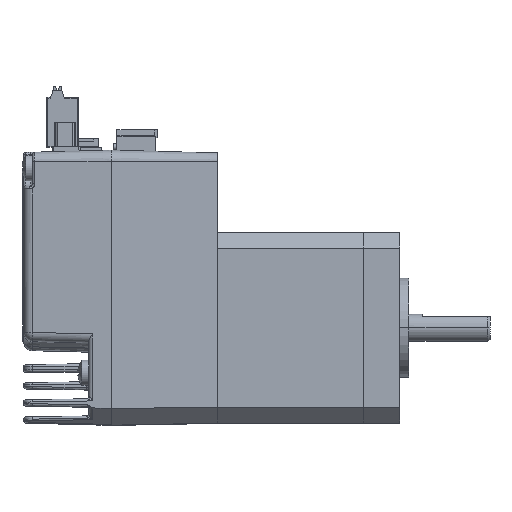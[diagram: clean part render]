
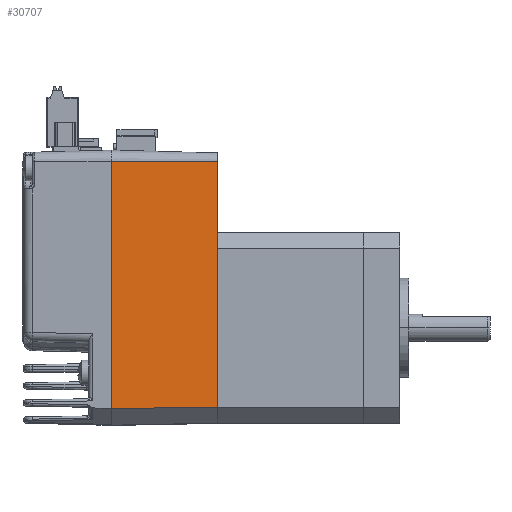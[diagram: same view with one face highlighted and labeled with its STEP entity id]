
A CAD part, top view. The second image highlights one B-rep face of the part: STEP entity #30707.
In plain terms, the highlighted planar face has unit normal (0.026, 0, 1) as drawn and (0, -0.026, 1) by its records, which use the part's own axes.
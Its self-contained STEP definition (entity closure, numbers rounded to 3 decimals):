
#1717 = DIRECTION ( 'NONE',  ( 0.011, -1., -0.026 ) ) ;
#3058 = LINE ( 'NONE', #91068, #93124 ) ;
#4928 = FACE_OUTER_BOUND ( 'NONE', #134679, .T. ) ;
#8606 = EDGE_CURVE ( 'NONE', #10341, #29433, #117020, .T. ) ;
#8626 = DIRECTION ( 'NONE',  ( 0., -0.026, 1. ) ) ;
#10163 = VERTEX_POINT ( 'NONE', #42779 ) ;
#10341 = VERTEX_POINT ( 'NONE', #141080 ) ;
#16885 = VERTEX_POINT ( 'NONE', #92017 ) ;
#29433 = VERTEX_POINT ( 'NONE', #51224 ) ;
#30707 = ADVANCED_FACE ( 'NONE', ( #4928 ), #56384, .T. ) ;
#31882 = EDGE_CURVE ( 'NONE', #10163, #29433, #92848, .T. ) ;
#39550 = VECTOR ( 'NONE', #65917, 1000. ) ;
#42779 = CARTESIAN_POINT ( 'NONE',  ( -17.65, 0., 21.15 ) ) ;
#51224 = CARTESIAN_POINT ( 'NONE',  ( 36.75, 0., 21.15 ) ) ;
#56254 = DIRECTION ( 'NONE',  ( 1., 0., 0. ) ) ;
#56384 = PLANE ( 'NONE',  #121747 ) ;
#65917 = DIRECTION ( 'NONE',  ( 0., -1., -0.026 ) ) ;
#69245 = LINE ( 'NONE', #129174, #123444 ) ;
#69499 = ORIENTED_EDGE ( 'NONE', *, *, #108104, .T. ) ;
#88682 = CARTESIAN_POINT ( 'NONE',  ( 36.75, 0., 21.15 ) ) ;
#89190 = VECTOR ( 'NONE', #141473, 1000. ) ;
#91068 = CARTESIAN_POINT ( 'NONE',  ( -17.65, 23.5, 21.765 ) ) ;
#92017 = CARTESIAN_POINT ( 'NONE',  ( -17.905, 23.5, 21.765 ) ) ;
#92848 = LINE ( 'NONE', #97070, #89190 ) ;
#93124 = VECTOR ( 'NONE', #56254, 1000. ) ;
#95479 = EDGE_CURVE ( 'NONE', #16885, #10341, #3058, .T. ) ;
#97070 = CARTESIAN_POINT ( 'NONE',  ( -17.65, 0., 21.15 ) ) ;
#97175 = ORIENTED_EDGE ( 'NONE', *, *, #95479, .F. ) ;
#108104 = EDGE_CURVE ( 'NONE', #16885, #10163, #69245, .T. ) ;
#108614 = ORIENTED_EDGE ( 'NONE', *, *, #8606, .F. ) ;
#112312 = DIRECTION ( 'NONE',  ( 0., -1., -0.026 ) ) ;
#117020 = LINE ( 'NONE', #88682, #39550 ) ;
#121747 = AXIS2_PLACEMENT_3D ( 'NONE', #148648, #8626, #112312 ) ;
#123444 = VECTOR ( 'NONE', #1717, 1000. ) ;
#128437 = ORIENTED_EDGE ( 'NONE', *, *, #31882, .T. ) ;
#129174 = CARTESIAN_POINT ( 'NONE',  ( -17.65, 0., 21.15 ) ) ;
#134679 = EDGE_LOOP ( 'NONE', ( #97175, #69499, #128437, #108614 ) ) ;
#141080 = CARTESIAN_POINT ( 'NONE',  ( 36.75, 23.5, 21.765 ) ) ;
#141473 = DIRECTION ( 'NONE',  ( 1., 0., 0. ) ) ;
#148648 = CARTESIAN_POINT ( 'NONE',  ( -17.65, 0., 21.15 ) ) ;
